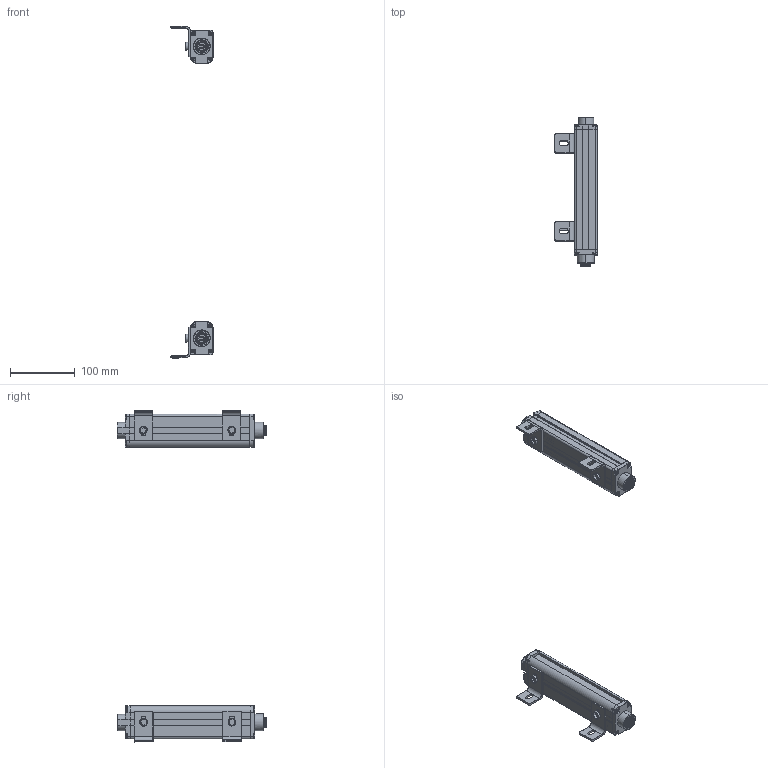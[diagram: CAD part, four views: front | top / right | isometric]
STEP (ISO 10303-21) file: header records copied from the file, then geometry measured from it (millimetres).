
FILE_DESCRIPTION (( 'STEP AP214' ), '1' );
FILE_NAME ('esn0820.STEP', '2018-03-09T00:06:55', ( '' ), ( '' ), 'SwSTEP 2.0', 'SolidWorks 2017', '' );
FILE_SCHEMA (( 'AUTOMOTIVE_DESIGN' ));
Length unit declared in the file: millimetre
Products named in the file (12): esn0820; zj0820; esn20820; lx0820; hk0820; esndg20820; m6-ls0820; esndg1z0820; lgp0820; pcb0820; esndg10820; hkct10820
Assembly tree (40 placements, depth 2):
  esn0820
    esn20820  x2
    esndg10820
    pcb0820  x2
    esndg20820  x2
    lgp0820  x2
    hkct10820  x2
    lx0820  x16
    hk0820  x4
    zj0820  x4
    m6-ls0820  x4
    esndg1z0820
Bounding box: 64.8 x 230.32 x 511.65 mm (x, y, z)
Volume: 328644.1 mm3; surface area: 244278.6 mm2
Topology: 40 solids, 40 shells, 2135 faces, 5651 edges, 3638 vertices
Faces by surface type: cylinder 1025, plane 706, bspline 404
Entity records: 184074 total; most frequent: CARTESIAN_POINT 166338, ORIENTED_EDGE 3838, DIRECTION 3268, EDGE_CURVE 1919, VERTEX_POINT 1228, AXIS2_PLACEMENT_3D 1165, LINE 938, VECTOR 938
